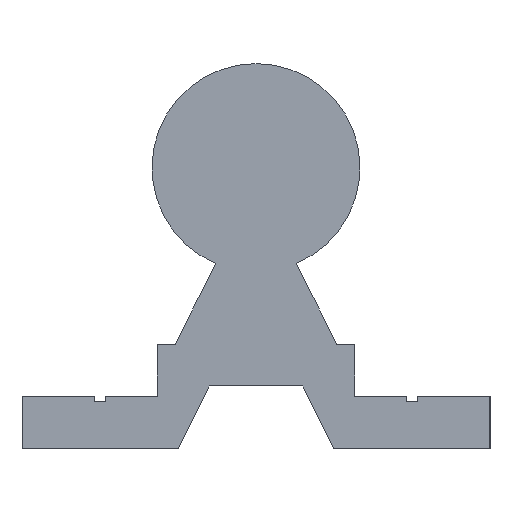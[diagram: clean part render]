
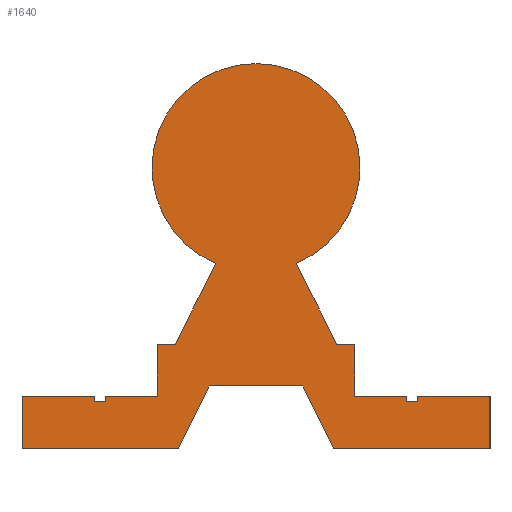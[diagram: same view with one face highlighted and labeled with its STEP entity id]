
A CAD part, left-side view. The second image highlights one B-rep face of the part: STEP entity #1640.
In plain terms, the highlighted planar face has unit normal (-1, 0, 0).
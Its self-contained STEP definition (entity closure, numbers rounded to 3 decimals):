
#41=LINE('',#2335,#169);
#51=LINE('',#2376,#179);
#74=LINE('',#2569,#202);
#112=LINE('',#2749,#240);
#116=LINE('',#2757,#244);
#119=LINE('',#2763,#247);
#122=LINE('',#2769,#250);
#125=LINE('',#2775,#253);
#129=LINE('',#2782,#257);
#132=LINE('',#2787,#260);
#134=LINE('',#2791,#262);
#135=LINE('',#2793,#263);
#136=LINE('',#2796,#264);
#139=LINE('',#2802,#267);
#142=LINE('',#2808,#270);
#145=LINE('',#2815,#273);
#149=LINE('',#2823,#277);
#152=LINE('',#2828,#280);
#155=LINE('',#2833,#283);
#157=LINE('',#2837,#285);
#158=LINE('',#2839,#286);
#159=LINE('',#2842,#287);
#162=LINE('',#2847,#290);
#169=VECTOR('',#1854,10.);
#179=VECTOR('',#1876,10.);
#202=VECTOR('',#2017,10.);
#240=VECTOR('',#2201,10.);
#244=VECTOR('',#2207,10.);
#247=VECTOR('',#2212,10.);
#250=VECTOR('',#2217,10.);
#253=VECTOR('',#2222,10.);
#257=VECTOR('',#2228,10.);
#260=VECTOR('',#2233,10.);
#262=VECTOR('',#2237,10.);
#263=VECTOR('',#2240,10.);
#264=VECTOR('',#2243,10.);
#267=VECTOR('',#2248,10.);
#270=VECTOR('',#2253,10.);
#273=VECTOR('',#2258,10.);
#277=VECTOR('',#2264,10.);
#280=VECTOR('',#2269,10.);
#283=VECTOR('',#2274,10.);
#285=VECTOR('',#2278,10.);
#286=VECTOR('',#2281,10.);
#287=VECTOR('',#2284,10.);
#290=VECTOR('',#2289,10.);
#346=PLANE('',#1830);
#428=FACE_OUTER_BOUND('',#520,.T.);
#520=EDGE_LOOP('',(#1519,#1520,#1521,#1522,#1523,#1524,#1525,#1526,#1527,
#1528,#1529,#1530,#1531,#1532,#1533,#1534,#1535,#1536,#1537,#1538,#1539,
#1540,#1541,#1542));
#607=CIRCLE('',#1827,10.);
#653=VERTEX_POINT('',#2332);
#654=VERTEX_POINT('',#2334);
#666=VERTEX_POINT('',#2373);
#667=VERTEX_POINT('',#2375);
#720=VERTEX_POINT('',#2566);
#721=VERTEX_POINT('',#2568);
#768=VERTEX_POINT('',#2747);
#769=VERTEX_POINT('',#2748);
#772=VERTEX_POINT('',#2756);
#774=VERTEX_POINT('',#2762);
#776=VERTEX_POINT('',#2768);
#778=VERTEX_POINT('',#2774);
#780=VERTEX_POINT('',#2780);
#781=VERTEX_POINT('',#2785);
#782=VERTEX_POINT('',#2789);
#783=VERTEX_POINT('',#2795);
#785=VERTEX_POINT('',#2801);
#787=VERTEX_POINT('',#2807);
#789=VERTEX_POINT('',#2813);
#790=VERTEX_POINT('',#2814);
#793=VERTEX_POINT('',#2822);
#795=VERTEX_POINT('',#2831);
#796=VERTEX_POINT('',#2835);
#797=VERTEX_POINT('',#2841);
#812=EDGE_CURVE('',#653,#654,#41,.T.);
#828=EDGE_CURVE('',#666,#667,#51,.T.);
#908=EDGE_CURVE('',#720,#721,#74,.T.);
#993=EDGE_CURVE('',#768,#769,#112,.T.);
#997=EDGE_CURVE('',#772,#768,#116,.T.);
#1000=EDGE_CURVE('',#774,#772,#119,.T.);
#1003=EDGE_CURVE('',#776,#774,#122,.T.);
#1006=EDGE_CURVE('',#778,#776,#125,.T.);
#1010=EDGE_CURVE('',#780,#778,#129,.T.);
#1013=EDGE_CURVE('',#781,#780,#132,.T.);
#1015=EDGE_CURVE('',#782,#781,#134,.T.);
#1016=EDGE_CURVE('',#721,#782,#135,.T.);
#1017=EDGE_CURVE('',#783,#720,#136,.T.);
#1020=EDGE_CURVE('',#785,#783,#139,.T.);
#1023=EDGE_CURVE('',#787,#785,#142,.T.);
#1026=EDGE_CURVE('',#789,#790,#145,.T.);
#1030=EDGE_CURVE('',#793,#789,#149,.T.);
#1033=EDGE_CURVE('',#654,#793,#152,.T.);
#1036=EDGE_CURVE('',#795,#653,#155,.T.);
#1038=EDGE_CURVE('',#796,#795,#157,.T.);
#1039=EDGE_CURVE('',#667,#796,#158,.T.);
#1040=EDGE_CURVE('',#797,#666,#159,.T.);
#1043=EDGE_CURVE('',#769,#797,#162,.T.);
#1045=EDGE_CURVE('',#790,#787,#607,.T.);
#1519=ORIENTED_EDGE('',*,*,#1045,.F.);
#1520=ORIENTED_EDGE('',*,*,#1026,.F.);
#1521=ORIENTED_EDGE('',*,*,#1030,.F.);
#1522=ORIENTED_EDGE('',*,*,#1033,.F.);
#1523=ORIENTED_EDGE('',*,*,#812,.F.);
#1524=ORIENTED_EDGE('',*,*,#1036,.F.);
#1525=ORIENTED_EDGE('',*,*,#1038,.F.);
#1526=ORIENTED_EDGE('',*,*,#1039,.F.);
#1527=ORIENTED_EDGE('',*,*,#828,.F.);
#1528=ORIENTED_EDGE('',*,*,#1040,.F.);
#1529=ORIENTED_EDGE('',*,*,#1043,.F.);
#1530=ORIENTED_EDGE('',*,*,#993,.F.);
#1531=ORIENTED_EDGE('',*,*,#997,.F.);
#1532=ORIENTED_EDGE('',*,*,#1000,.F.);
#1533=ORIENTED_EDGE('',*,*,#1003,.F.);
#1534=ORIENTED_EDGE('',*,*,#1006,.F.);
#1535=ORIENTED_EDGE('',*,*,#1010,.F.);
#1536=ORIENTED_EDGE('',*,*,#1013,.F.);
#1537=ORIENTED_EDGE('',*,*,#1015,.F.);
#1538=ORIENTED_EDGE('',*,*,#1016,.F.);
#1539=ORIENTED_EDGE('',*,*,#908,.F.);
#1540=ORIENTED_EDGE('',*,*,#1017,.F.);
#1541=ORIENTED_EDGE('',*,*,#1020,.F.);
#1542=ORIENTED_EDGE('',*,*,#1023,.F.);
#1640=ADVANCED_FACE('',(#428),#346,.F.);
#1827=AXIS2_PLACEMENT_3D('',#2850,#2293,#2294);
#1830=AXIS2_PLACEMENT_3D('',#2853,#2299,#2300);
#1854=DIRECTION('',(0.,-1.,0.));
#1876=DIRECTION('',(0.,-1.,0.));
#2017=DIRECTION('',(0.,-1.,0.));
#2201=DIRECTION('',(0.,0.447,-0.894));
#2207=DIRECTION('',(0.,1.,0.));
#2212=DIRECTION('',(0.,0.447,0.894));
#2217=DIRECTION('',(0.,1.,0.));
#2222=DIRECTION('',(0.,0.,-1.));
#2228=DIRECTION('',(0.,-1.,0.));
#2233=DIRECTION('',(0.,0.,1.));
#2237=DIRECTION('',(0.,-1.,0.));
#2240=DIRECTION('',(0.,0.,-1.));
#2243=DIRECTION('',(0.,0.,-1.));
#2248=DIRECTION('',(0.,-1.,0.));
#2253=DIRECTION('',(0.,-0.447,-0.894));
#2258=DIRECTION('',(0.,-0.447,0.894));
#2264=DIRECTION('',(0.,-1.,0.));
#2269=DIRECTION('',(0.,0.,1.));
#2274=DIRECTION('',(0.,0.,1.));
#2278=DIRECTION('',(0.,-1.,0.));
#2281=DIRECTION('',(0.,0.,-1.));
#2284=DIRECTION('',(0.,0.,1.));
#2289=DIRECTION('',(0.,1.,0.));
#2293=DIRECTION('center_axis',(1.,0.,0.));
#2294=DIRECTION('ref_axis',(0.,1.,0.));
#2299=DIRECTION('center_axis',(1.,0.,0.));
#2300=DIRECTION('ref_axis',(0.,0.,-1.));
#2332=CARTESIAN_POINT('',(0.,14.5,5.));
#2334=CARTESIAN_POINT('',(0.,9.5,5.));
#2335=CARTESIAN_POINT('',(0.,14.5,5.));
#2373=CARTESIAN_POINT('',(0.,22.5,5.));
#2375=CARTESIAN_POINT('',(0.,15.5,5.));
#2376=CARTESIAN_POINT('',(0.,22.5,5.));
#2566=CARTESIAN_POINT('',(0.,-9.5,5.));
#2568=CARTESIAN_POINT('',(0.,-14.5,5.));
#2569=CARTESIAN_POINT('',(0.,-9.5,5.));
#2747=CARTESIAN_POINT('',(0.,4.5,6.));
#2748=CARTESIAN_POINT('',(0.,7.5,0.));
#2749=CARTESIAN_POINT('',(0.,4.5,6.));
#2756=CARTESIAN_POINT('',(0.,-4.5,6.));
#2757=CARTESIAN_POINT('',(0.,-4.5,6.));
#2762=CARTESIAN_POINT('',(0.,-7.5,0.));
#2763=CARTESIAN_POINT('',(0.,-7.5,0.));
#2768=CARTESIAN_POINT('',(0.,-22.5,0.));
#2769=CARTESIAN_POINT('',(0.,-22.5,0.));
#2774=CARTESIAN_POINT('',(0.,-22.5,5.));
#2775=CARTESIAN_POINT('',(0.,-22.5,5.));
#2780=CARTESIAN_POINT('',(0.,-15.5,5.));
#2782=CARTESIAN_POINT('',(0.,-15.5,5.));
#2785=CARTESIAN_POINT('',(0.,-15.5,4.5));
#2787=CARTESIAN_POINT('',(0.,-15.5,4.5));
#2789=CARTESIAN_POINT('',(0.,-14.5,4.5));
#2791=CARTESIAN_POINT('',(0.,-14.5,4.5));
#2793=CARTESIAN_POINT('',(0.,-14.5,5.));
#2795=CARTESIAN_POINT('',(0.,-9.5,10.));
#2796=CARTESIAN_POINT('',(0.,-9.5,10.));
#2801=CARTESIAN_POINT('',(0.,-7.766,10.));
#2802=CARTESIAN_POINT('',(0.,-7.766,10.));
#2807=CARTESIAN_POINT('',(0.,-3.875,17.781));
#2808=CARTESIAN_POINT('',(0.,-3.875,17.781));
#2813=CARTESIAN_POINT('',(0.,7.766,10.));
#2814=CARTESIAN_POINT('',(0.,3.875,17.781));
#2815=CARTESIAN_POINT('',(0.,7.766,10.));
#2822=CARTESIAN_POINT('',(0.,9.5,10.));
#2823=CARTESIAN_POINT('',(0.,9.5,10.));
#2828=CARTESIAN_POINT('',(0.,9.5,5.));
#2831=CARTESIAN_POINT('',(0.,14.5,4.5));
#2833=CARTESIAN_POINT('',(0.,14.5,4.5));
#2835=CARTESIAN_POINT('',(0.,15.5,4.5));
#2837=CARTESIAN_POINT('',(0.,15.5,4.5));
#2839=CARTESIAN_POINT('',(0.,15.5,5.));
#2841=CARTESIAN_POINT('',(0.,22.5,0.));
#2842=CARTESIAN_POINT('',(0.,22.5,0.));
#2847=CARTESIAN_POINT('',(0.,7.5,0.));
#2850=CARTESIAN_POINT('Origin',(0.,0.,27.));
#2853=CARTESIAN_POINT('Origin',(0.,0.,27.));
